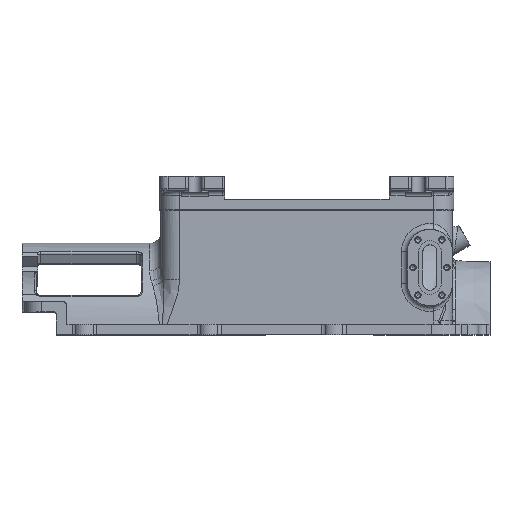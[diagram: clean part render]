
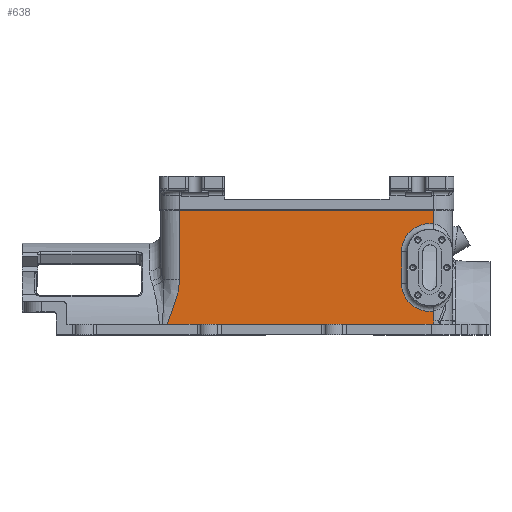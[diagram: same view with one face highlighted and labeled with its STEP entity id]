
A CAD part, top view. The second image highlights one B-rep face of the part: STEP entity #638.
In plain terms, the highlighted planar face has unit normal (0, 0, 1).
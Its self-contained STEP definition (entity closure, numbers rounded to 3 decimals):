
#638=ADVANCED_FACE('',(#6699),#6701,.F.);
#6699=FACE_BOUND('',#6700,.T.);
#6700=EDGE_LOOP('',(#23834,#23835,#23836,#23837,#23838,#23839,#23840,#23841,#23842,
#23843));
#6701=PLANE('',#6702);
#6702=AXIS2_PLACEMENT_3D('',#6703,#6704,#6705);
#6703=CARTESIAN_POINT('',(-280.,220.,163.));
#6704=DIRECTION('',(0.,0.,-1.));
#6705=DIRECTION('',(1.,0.,0.));
#23834=ORIENTED_EDGE('',*,*,#26910,.T.);
#23835=ORIENTED_EDGE('',*,*,#26911,.T.);
#23836=ORIENTED_EDGE('',*,*,#26908,.F.);
#23837=ORIENTED_EDGE('',*,*,#26912,.F.);
#23838=ORIENTED_EDGE('',*,*,#26913,.T.);
#23839=ORIENTED_EDGE('',*,*,#26914,.T.);
#23840=ORIENTED_EDGE('',*,*,#26797,.T.);
#23841=ORIENTED_EDGE('',*,*,#26915,.F.);
#23842=ORIENTED_EDGE('',*,*,#26916,.F.);
#23843=ORIENTED_EDGE('',*,*,#26917,.T.);
#26797=EDGE_CURVE('',#28583,#28581,#28584,.F.);
#26908=EDGE_CURVE('',#28787,#28789,#28790,.T.);
#26910=EDGE_CURVE('',#28792,#28793,#28794,.T.);
#26911=EDGE_CURVE('',#28793,#28789,#28795,.T.);
#26912=EDGE_CURVE('',#28796,#28787,#28797,.T.);
#26913=EDGE_CURVE('',#28796,#28798,#28799,.T.);
#26914=EDGE_CURVE('',#28798,#28583,#28800,.T.);
#26915=EDGE_CURVE('',#28801,#28581,#28802,.T.);
#26916=EDGE_CURVE('',#28803,#28801,#28804,.T.);
#26917=EDGE_CURVE('',#28803,#28792,#28805,.T.);
#28581=VERTEX_POINT('',#32925);
#28583=VERTEX_POINT('',#32947);
#28584=LINE('',#32948,#32949);
#28787=VERTEX_POINT('',#33618);
#28789=VERTEX_POINT('',#33623);
#28790=LINE('',#33624,#33625);
#28792=VERTEX_POINT('',#33649);
#28793=VERTEX_POINT('',#33650);
#28794=LINE('',#33651,#33652);
#28795=CIRCLE('',#33654,50.);
#28796=VERTEX_POINT('',#33658);
#28797=LINE('',#33659,#33660);
#28798=VERTEX_POINT('',#33662);
#28799=LINE('',#33663,#33664);
#28800=B_SPLINE_CURVE_WITH_KNOTS('',3,
(#33666,#33667,#33668,#33669,#33670,#33671,#33672,#33673,#33674,#33675,#33676,#33677),
.UNSPECIFIED.,.F.,.F.,
(4,2,2,2,2,4),
(0.,0.239,0.477,0.716,0.955,1.),
.UNSPECIFIED.);
#28801=VERTEX_POINT('',#33678);
#28802=B_SPLINE_CURVE_WITH_KNOTS('',3,
(#33679,#33680,#33681,#33682),
.UNSPECIFIED.,.F.,.F.,
(4,4),
(0.,1.),
.UNSPECIFIED.);
#28803=VERTEX_POINT('',#33683);
#28804=LINE('',#33684,#33685);
#28805=CIRCLE('',#33687,50.);
#32925=CARTESIAN_POINT('',(201.031,19.,163.));
#32947=CARTESIAN_POINT('',(-269.568,19.,163.));
#32948=CARTESIAN_POINT('',(201.031,19.,163.));
#32949=VECTOR('',#32950,1.);
#32950=DIRECTION('',(-1.,0.,0.));
#33618=CARTESIAN_POINT('',(201.,220.,163.));
#33623=CARTESIAN_POINT('',(201.,196.508,163.));
#33624=CARTESIAN_POINT('',(201.,220.,163.));
#33625=VECTOR('',#33626,1.);
#33626=DIRECTION('',(0.,-1.,0.));
#33649=CARTESIAN_POINT('',(144.,92.,163.));
#33650=CARTESIAN_POINT('',(144.,147.,163.));
#33651=CARTESIAN_POINT('',(144.,92.,163.));
#33652=VECTOR('',#33653,1.);
#33653=DIRECTION('',(0.,1.,0.));
#33654=AXIS2_PLACEMENT_3D('',#33655,#33656,#33657);
#33655=CARTESIAN_POINT('',(194.,147.,163.));
#33656=DIRECTION('',(0.,0.,-1.));
#33657=DIRECTION('',(-1.,0.,0.));
#33658=CARTESIAN_POINT('',(-247.,220.,163.));
#33659=CARTESIAN_POINT('',(-247.,220.,163.));
#33660=VECTOR('',#33661,1.);
#33661=DIRECTION('',(1.,0.,0.));
#33662=CARTESIAN_POINT('',(-247.,97.5,163.));
#33663=CARTESIAN_POINT('',(-247.,220.,163.));
#33664=VECTOR('',#33665,1.);
#33665=DIRECTION('',(0.,-1.,0.));
#33666=CARTESIAN_POINT('',(-247.,97.5,163.));
#33667=CARTESIAN_POINT('',(-247.405,91.918,163.));
#33668=CARTESIAN_POINT('',(-247.811,86.337,163.));
#33669=CARTESIAN_POINT('',(-250.103,74.539,163.));
#33670=CARTESIAN_POINT('',(-251.92,68.381,163.));
#33671=CARTESIAN_POINT('',(-255.832,55.834,163.));
#33672=CARTESIAN_POINT('',(-258.274,49.346,163.));
#33673=CARTESIAN_POINT('',(-263.113,36.248,163.));
#33674=CARTESIAN_POINT('',(-266.21,29.531,163.));
#33675=CARTESIAN_POINT('',(-268.803,21.544,163.));
#33676=CARTESIAN_POINT('',(-269.194,20.273,163.));
#33677=CARTESIAN_POINT('',(-269.568,19.,163.));
#33678=CARTESIAN_POINT('',(201.,25.424,163.));
#33679=CARTESIAN_POINT('',(201.,25.424,163.));
#33680=CARTESIAN_POINT('',(201.011,23.283,163.));
#33681=CARTESIAN_POINT('',(201.021,21.143,163.));
#33682=CARTESIAN_POINT('',(201.031,19.,163.));
#33683=CARTESIAN_POINT('',(201.,42.492,163.));
#33684=CARTESIAN_POINT('',(201.,42.492,163.));
#33685=VECTOR('',#33686,1.);
#33686=DIRECTION('',(0.,-1.,0.));
#33687=AXIS2_PLACEMENT_3D('',#33688,#33689,#33690);
#33688=CARTESIAN_POINT('',(194.,92.,163.));
#33689=DIRECTION('',(0.,0.,-1.));
#33690=DIRECTION('',(0.14,-0.99,0.));
